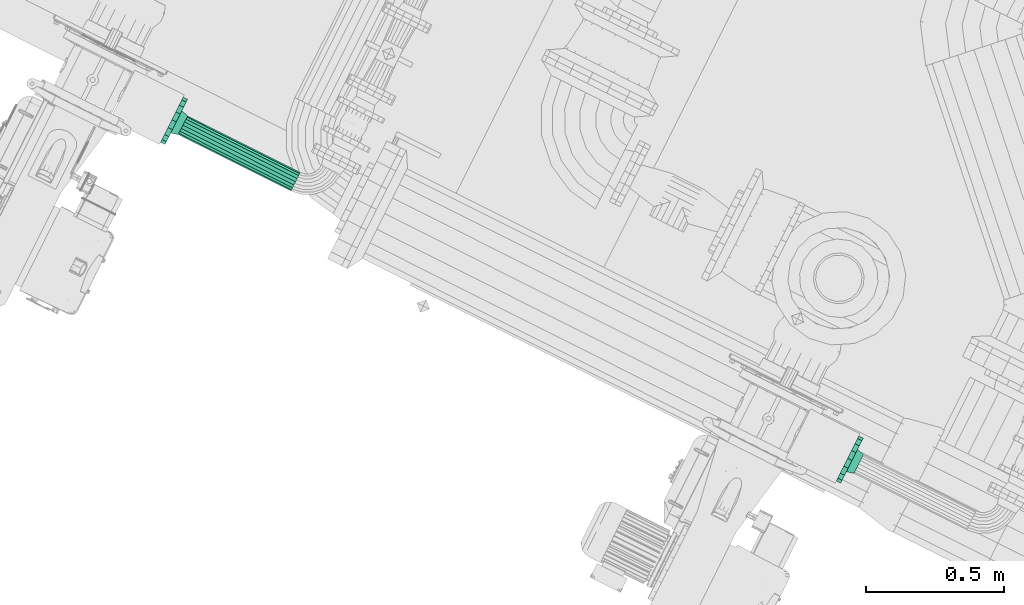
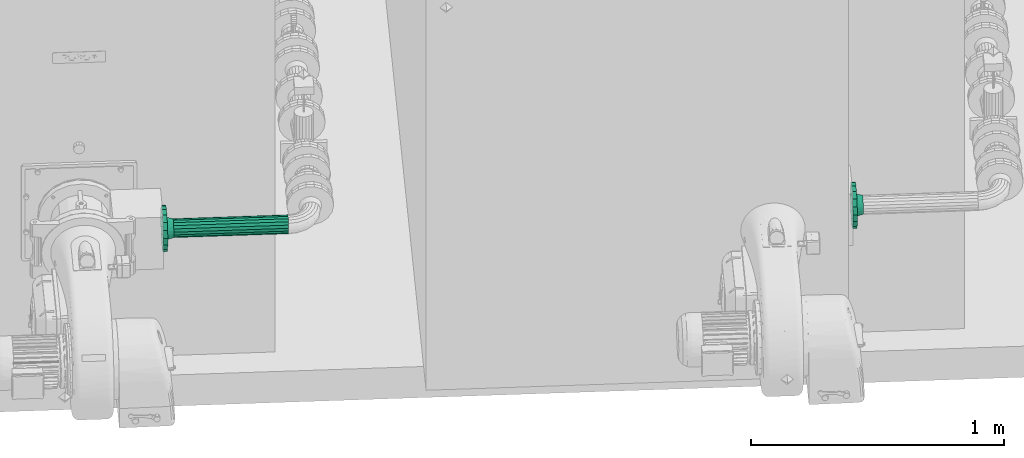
# One storey, part 42 of 206: 2 flow fittings, 1 flow segment.
"""IFC2X3 building model written with IfcOpenShell, lengths in metres."""

from ifc_helpers import new_model, si_unit, derived_unit, direction, frame, origin, place, context, subcontext, project, spatial, face_set, surface_model, source, transform, mapped, material, type_object, type_shapes, element, save


model = new_model("IFC2X3")

# Units and contexts
model_context = context("Model", 3, precision=5.2338327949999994e-05, world=origin(), true_north=direction((0.0, 1.0)))
body_context = subcontext(model_context, "Body", "Model", "MODEL_VIEW")
ifc_project = project(units=[si_unit("LENGTHUNIT", "METRE"), si_unit("AREAUNIT", "SQUARE_METRE"), si_unit("VOLUMEUNIT", "CUBIC_METRE"), si_unit("MASSUNIT", "GRAM", prefix="KILO"), si_unit("PLANEANGLEUNIT", "RADIAN"), derived_unit("THERMALTRANSMITTANCEUNIT", [(si_unit("MASSUNIT", "GRAM", prefix="KILO"), 1), (si_unit("THERMODYNAMICTEMPERATUREUNIT", "KELVIN"), -1), (si_unit("TIMEUNIT", "SECOND"), -3)])], contexts=[model_context])

# Site, building, storey
site_placement = place(None, frame((0.0, 0.0, 0.0), z_axis=(0.0, 0.0, 1.0), x_axis=(0.8939966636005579, -0.4480736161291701, 0.0)))
site = spatial("IfcSite", under=ifc_project, at=site_placement, Name="Default", CompositionType="ELEMENT")
building_placement = place(site_placement, origin())
building = spatial("IfcBuilding", under=site, at=building_placement, CompositionType="ELEMENT")
storey_placement = place(building_placement, origin())
storey = spatial("IfcBuildingStorey", under=building, at=storey_placement, Name="Erdgeschoss", CompositionType="ELEMENT", Elevation=0.0)

# Flow fitting
ifc_material = material(Name="IfcSurfaceStyle #352577")
distribution_element_type_1 = type_object("IfcDistributionElementType", Name="Flansch 355455:Flansch 355455", material=ifc_material)
shared_shape_1 = source(origin(), body_context, "Body", "SurfaceModel", [
    surface_model("IfcFaceBasedSurfaceModel", [(21.806271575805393, 4.789908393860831, 0.8699999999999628), (21.806271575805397, 4.792203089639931, 0.8830138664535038), (21.779271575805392, 4.785672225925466, 0.8853909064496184), (21.779271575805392, 4.782958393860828, 0.8699999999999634), (21.806271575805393, 4.798810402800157, 0.8944580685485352), (21.779271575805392, 4.793486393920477, 0.8989254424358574), (21.806271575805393, 4.808933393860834, 0.9029522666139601), (21.77927157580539, 4.805458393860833, 0.9089711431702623), (21.806271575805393, 4.821351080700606, 0.9074719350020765), (21.779271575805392, 4.820144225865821, 0.9143163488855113), (21.806271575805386, 4.834565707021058, 0.9074719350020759), (21.77927157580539, 4.835772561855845, 0.91431634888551), (21.806271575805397, 4.846983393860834, 0.9029522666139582), (21.779271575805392, 4.850458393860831, 0.9089711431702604), (21.806271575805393, 4.857106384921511, 0.8944580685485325), (21.77927157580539, 4.862430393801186, 0.8989254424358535), (21.806271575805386, 4.863713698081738, 0.8830138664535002), (21.779271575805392, 4.870244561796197, 0.8853909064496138), (21.806271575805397, 4.86600839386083, 0.8699999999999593), (21.779271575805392, 4.872958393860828, 0.8699999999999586), (21.806271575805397, 4.863713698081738, 0.8569861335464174), (21.779271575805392, 4.870244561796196, 0.8546090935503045), (21.806271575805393, 4.857106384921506, 0.8455419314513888), (21.779271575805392, 4.862430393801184, 0.8410745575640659), (21.806271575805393, 4.84698339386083, 0.8370477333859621), (21.779271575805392, 4.850458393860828, 0.8310288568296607), (21.8062715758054, 4.834565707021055, 0.8325280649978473), (21.779271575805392, 4.835772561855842, 0.8256836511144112), (21.806271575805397, 4.821351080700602, 0.832528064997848), (21.779271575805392, 4.820144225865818, 0.8256836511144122), (21.806271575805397, 4.80893339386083, 0.8370477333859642), (21.779271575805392, 4.805458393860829, 0.8310288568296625), (21.806271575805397, 4.798810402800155, 0.8455419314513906), (21.779271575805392, 4.7934863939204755, 0.8410745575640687), (21.806271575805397, 4.792203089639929, 0.856986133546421), (21.779271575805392, 4.785672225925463, 0.854609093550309), (21.7792715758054, 4.827958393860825, 0.7774999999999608), (21.7792715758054, 4.796321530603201, 0.7830784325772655), (21.7612715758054, 4.796321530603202, 0.783078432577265), (21.761271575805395, 4.827958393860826, 0.7774999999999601), (21.779271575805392, 4.768500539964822, 0.7991408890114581), (21.7612715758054, 4.768500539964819, 0.7991408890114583), (21.779271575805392, 4.747851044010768, 0.8237499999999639), (21.761271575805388, 4.747851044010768, 0.8237499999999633), (21.779271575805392, 4.736863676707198, 0.8539375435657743), (21.761271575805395, 4.736863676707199, 0.8539375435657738), (21.779271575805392, 4.736863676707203, 0.8860624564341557), (21.761271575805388, 4.736863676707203, 0.8860624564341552), (21.77927157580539, 4.7478510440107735, 0.9162499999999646), (21.761271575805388, 4.747851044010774, 0.9162499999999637), (21.779271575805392, 4.768500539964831, 0.9408591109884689), (21.761271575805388, 4.768500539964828, 0.940859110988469), (21.779271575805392, 4.79632153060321, 0.9569215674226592), (21.76127157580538, 4.796321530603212, 0.9569215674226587), (21.77927157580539, 4.827958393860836, 0.9624999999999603), (21.761271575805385, 4.827958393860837, 0.9624999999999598), (21.77927157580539, 4.859595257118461, 0.9569215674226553), (21.761271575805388, 4.859595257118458, 0.9569215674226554), (21.77927157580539, 4.887416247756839, 0.9408591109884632), (21.761271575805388, 4.887416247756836, 0.9408591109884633), (21.77927157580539, 4.908065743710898, 0.9162499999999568), (21.761271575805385, 4.908065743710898, 0.9162499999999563), (21.77927157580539, 4.91905311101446, 0.8860624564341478), (21.761271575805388, 4.91905311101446, 0.8860624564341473), (21.77927157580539, 4.91905311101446, 0.8539375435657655), (21.761271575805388, 4.91905311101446, 0.8539375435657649), (21.77927157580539, 4.90806574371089, 0.8237499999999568), (21.761271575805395, 4.9080657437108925, 0.8237499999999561), (21.779271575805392, 4.887416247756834, 0.7991408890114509), (21.7612715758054, 4.887416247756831, 0.7991408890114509), (21.779271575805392, 4.859595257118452, 0.7830784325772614), (21.761271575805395, 4.859595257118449, 0.7830784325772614), (21.77927157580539, 4.827958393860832, 0.86999999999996)], [face_set([[[0, 1, 2, 3]], [[1, 4, 5, 2]], [[4, 6, 7, 5]], [[6, 8, 9, 7]], [[8, 10, 11, 9]], [[10, 12, 13, 11]], [[12, 14, 15, 13]], [[14, 16, 17, 15]], [[16, 18, 19, 17]], [[18, 20, 21, 19]], [[20, 22, 23, 21]], [[22, 24, 25, 23]], [[24, 26, 27, 25]], [[26, 28, 29, 27]], [[28, 30, 31, 29]], [[30, 32, 33, 31]], [[32, 34, 35, 33]], [[34, 0, 3, 35]], [[36, 37, 38, 39]], [[37, 40, 41, 38]], [[40, 42, 43, 41]], [[42, 44, 45, 43]], [[44, 46, 47, 45]], [[46, 48, 49, 47]], [[48, 50, 51, 49]], [[50, 52, 53, 51]], [[52, 54, 55, 53]], [[54, 56, 57, 55]], [[56, 58, 59, 57]], [[58, 60, 61, 59]], [[60, 62, 63, 61]], [[62, 64, 65, 63]], [[64, 66, 67, 65]], [[66, 68, 69, 67]], [[68, 70, 71, 69]], [[70, 36, 39, 71]], [[72, 37, 36]], [[72, 40, 37]], [[72, 42, 40]], [[72, 44, 42]], [[72, 46, 44]], [[72, 48, 46]], [[72, 50, 48]], [[72, 52, 50]], [[72, 54, 52]], [[72, 56, 54]], [[72, 58, 56]], [[72, 60, 58]], [[72, 62, 60]], [[72, 64, 62]], [[72, 66, 64]], [[72, 68, 66]], [[72, 70, 68]], [[72, 36, 70]]])]),
])
type_shapes(distribution_element_type_1, [shared_shape_1])
flow_fitting_1_placement = place(storey_placement, origin())
element("IfcFlowFitting", 1, at=flow_fitting_1_placement, inside=storey, type_object=distribution_element_type_1, material=ifc_material, Name="Flansch", ObjectType="Flansch", context=body_context, shape_type="MappedRepresentation", body=[
    mapped(shared_shape_1, transform((0.0, 0.0, 0.0), scale=1.0)),
])

# Flow segment
distribution_element_type_2 = type_object("IfcDistributionElementType", Name="Stahlrohr nach DIN 2448 358511:Stahlrohr nach DIN 2448 358511", material=ifc_material)
shared_shape_2 = source(origin(), body_context, "Body", "SurfaceModel", [
    surface_model("IfcFaceBasedSurfaceModel", [(22.261766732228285, 4.827958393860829, 0.908049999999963), (22.261766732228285, 4.840972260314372, 0.9057553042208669), (21.806271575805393, 4.840972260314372, 0.9057553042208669), (21.806271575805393, 4.82795839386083, 0.9080499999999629), (22.261766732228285, 4.8524164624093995, 0.8991479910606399), (21.806271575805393, 4.852416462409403, 0.8991479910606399), (22.261766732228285, 4.860910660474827, 0.8890249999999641), (21.806271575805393, 4.860910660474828, 0.8890249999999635), (22.261766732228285, 4.865430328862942, 0.8766073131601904), (21.806271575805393, 4.865430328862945, 0.8766073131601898), (22.261766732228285, 4.865430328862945, 0.8633926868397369), (21.806271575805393, 4.865430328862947, 0.8633926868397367), (22.261766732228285, 4.860910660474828, 0.850974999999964), (21.806271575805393, 4.860910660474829, 0.8509749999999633), (22.261766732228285, 4.852416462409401, 0.8408520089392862), (21.806271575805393, 4.852416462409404, 0.8408520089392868), (22.261766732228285, 4.840972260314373, 0.8342446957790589), (21.806271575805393, 4.840972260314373, 0.8342446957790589), (22.261766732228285, 4.827958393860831, 0.8319499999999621), (21.806271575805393, 4.827958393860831, 0.8319499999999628), (22.261766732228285, 4.814944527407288, 0.8342446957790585), (21.806271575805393, 4.814944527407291, 0.8342446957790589), (22.261766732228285, 4.803500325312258, 0.8408520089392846), (21.806271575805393, 4.803500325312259, 0.8408520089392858), (22.261766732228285, 4.7950061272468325, 0.8509749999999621), (21.806271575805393, 4.795006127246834, 0.8509749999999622), (22.261766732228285, 4.790486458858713, 0.8633926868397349), (21.806271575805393, 4.790486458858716, 0.8633926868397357), (22.261766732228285, 4.790486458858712, 0.8766073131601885), (21.806271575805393, 4.790486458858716, 0.8766073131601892), (22.261766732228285, 4.79500612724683, 0.8890249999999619), (21.806271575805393, 4.7950061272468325, 0.8890249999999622), (22.261766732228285, 4.803500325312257, 0.899147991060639), (21.806271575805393, 4.803500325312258, 0.8991479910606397), (22.261766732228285, 4.814944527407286, 0.9057553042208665), (21.806271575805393, 4.814944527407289, 0.9057553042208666)], [face_set([[[0, 1, 2, 3]], [[1, 4, 5, 2]], [[4, 6, 7, 5]], [[6, 8, 9, 7]], [[8, 10, 11, 9]], [[10, 12, 13, 11]], [[12, 14, 15, 13]], [[14, 16, 17, 15]], [[16, 18, 19, 17]], [[18, 20, 21, 19]], [[20, 22, 23, 21]], [[22, 24, 25, 23]], [[24, 26, 27, 25]], [[26, 28, 29, 27]], [[28, 30, 31, 29]], [[30, 32, 33, 31]], [[32, 34, 35, 33]], [[34, 0, 3, 35]]])]),
])
type_shapes(distribution_element_type_2, [shared_shape_2])
flow_segment_placement = place(storey_placement, origin())
element("IfcFlowSegment", 2, at=flow_segment_placement, inside=storey, type_object=distribution_element_type_2, material=ifc_material, Name="Stahlrohr nach DIN 2448", ObjectType="Stahlrohr nach DIN 2448", context=body_context, shape_type="MappedRepresentation", body=[
    mapped(shared_shape_2, transform((0.0, 0.0, 0.0), scale=1.0)),
])

# Flow fitting
distribution_element_type_3 = type_object("IfcDistributionElementType", Name="Flansch 603050:Flansch 603050", material=ifc_material)
shared_shape_3 = source(origin(), body_context, "Body", "SurfaceModel", [
    surface_model("IfcFaceBasedSurfaceModel", [(24.540145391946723, 4.789908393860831, 0.8699999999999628), (24.540145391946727, 4.792203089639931, 0.8830138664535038), (24.513145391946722, 4.785672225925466, 0.8853909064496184), (24.513145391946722, 4.782958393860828, 0.8699999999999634), (24.540145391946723, 4.798810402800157, 0.8944580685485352), (24.513145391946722, 4.793486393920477, 0.8989254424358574), (24.540145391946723, 4.808933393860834, 0.9029522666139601), (24.51314539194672, 4.805458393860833, 0.9089711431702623), (24.540145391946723, 4.821351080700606, 0.9074719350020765), (24.513145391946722, 4.820144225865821, 0.9143163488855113), (24.540145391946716, 4.834565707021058, 0.9074719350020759), (24.51314539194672, 4.835772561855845, 0.91431634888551), (24.540145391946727, 4.846983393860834, 0.9029522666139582), (24.513145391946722, 4.850458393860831, 0.9089711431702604), (24.540145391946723, 4.857106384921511, 0.8944580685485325), (24.51314539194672, 4.862430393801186, 0.8989254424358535), (24.540145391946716, 4.863713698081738, 0.8830138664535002), (24.513145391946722, 4.870244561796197, 0.8853909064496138), (24.540145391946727, 4.86600839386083, 0.8699999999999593), (24.513145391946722, 4.872958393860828, 0.8699999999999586), (24.540145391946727, 4.863713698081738, 0.8569861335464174), (24.513145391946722, 4.870244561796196, 0.8546090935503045), (24.540145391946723, 4.857106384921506, 0.8455419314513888), (24.513145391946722, 4.862430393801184, 0.8410745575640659), (24.540145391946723, 4.84698339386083, 0.8370477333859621), (24.513145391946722, 4.850458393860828, 0.8310288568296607), (24.54014539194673, 4.834565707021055, 0.8325280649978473), (24.513145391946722, 4.835772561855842, 0.8256836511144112), (24.540145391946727, 4.821351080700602, 0.832528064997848), (24.513145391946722, 4.820144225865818, 0.8256836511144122), (24.540145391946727, 4.80893339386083, 0.8370477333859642), (24.513145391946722, 4.805458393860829, 0.8310288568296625), (24.540145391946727, 4.798810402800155, 0.8455419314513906), (24.513145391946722, 4.7934863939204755, 0.8410745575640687), (24.540145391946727, 4.792203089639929, 0.856986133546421), (24.513145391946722, 4.785672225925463, 0.854609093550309), (24.51314539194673, 4.827958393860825, 0.7774999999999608), (24.51314539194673, 4.796321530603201, 0.7830784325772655), (24.49514539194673, 4.796321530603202, 0.783078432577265), (24.495145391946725, 4.827958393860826, 0.7774999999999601), (24.513145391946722, 4.768500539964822, 0.7991408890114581), (24.49514539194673, 4.768500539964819, 0.7991408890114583), (24.513145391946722, 4.747851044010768, 0.8237499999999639), (24.495145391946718, 4.747851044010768, 0.8237499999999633), (24.513145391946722, 4.736863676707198, 0.8539375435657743), (24.495145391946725, 4.736863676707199, 0.8539375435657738), (24.513145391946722, 4.736863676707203, 0.8860624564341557), (24.495145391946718, 4.736863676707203, 0.8860624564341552), (24.51314539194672, 4.7478510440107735, 0.9162499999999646), (24.495145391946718, 4.747851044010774, 0.9162499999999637), (24.513145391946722, 4.768500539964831, 0.9408591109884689), (24.495145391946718, 4.768500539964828, 0.940859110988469), (24.513145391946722, 4.79632153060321, 0.9569215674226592), (24.49514539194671, 4.796321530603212, 0.9569215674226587), (24.51314539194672, 4.827958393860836, 0.9624999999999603), (24.495145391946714, 4.827958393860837, 0.9624999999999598), (24.51314539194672, 4.859595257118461, 0.9569215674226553), (24.495145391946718, 4.859595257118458, 0.9569215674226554), (24.51314539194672, 4.887416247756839, 0.9408591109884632), (24.495145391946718, 4.887416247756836, 0.9408591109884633), (24.51314539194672, 4.908065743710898, 0.9162499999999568), (24.495145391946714, 4.908065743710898, 0.9162499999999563), (24.51314539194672, 4.91905311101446, 0.8860624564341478), (24.495145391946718, 4.91905311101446, 0.8860624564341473), (24.51314539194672, 4.91905311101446, 0.8539375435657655), (24.495145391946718, 4.91905311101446, 0.8539375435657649), (24.51314539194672, 4.90806574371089, 0.8237499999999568), (24.495145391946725, 4.9080657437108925, 0.8237499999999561), (24.513145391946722, 4.887416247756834, 0.7991408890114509), (24.49514539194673, 4.887416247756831, 0.7991408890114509), (24.513145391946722, 4.859595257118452, 0.7830784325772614), (24.495145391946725, 4.859595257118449, 0.7830784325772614), (24.51314539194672, 4.827958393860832, 0.86999999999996)], [face_set([[[0, 1, 2, 3]], [[1, 4, 5, 2]], [[4, 6, 7, 5]], [[6, 8, 9, 7]], [[8, 10, 11, 9]], [[10, 12, 13, 11]], [[12, 14, 15, 13]], [[14, 16, 17, 15]], [[16, 18, 19, 17]], [[18, 20, 21, 19]], [[20, 22, 23, 21]], [[22, 24, 25, 23]], [[24, 26, 27, 25]], [[26, 28, 29, 27]], [[28, 30, 31, 29]], [[30, 32, 33, 31]], [[32, 34, 35, 33]], [[34, 0, 3, 35]], [[36, 37, 38, 39]], [[37, 40, 41, 38]], [[40, 42, 43, 41]], [[42, 44, 45, 43]], [[44, 46, 47, 45]], [[46, 48, 49, 47]], [[48, 50, 51, 49]], [[50, 52, 53, 51]], [[52, 54, 55, 53]], [[54, 56, 57, 55]], [[56, 58, 59, 57]], [[58, 60, 61, 59]], [[60, 62, 63, 61]], [[62, 64, 65, 63]], [[64, 66, 67, 65]], [[66, 68, 69, 67]], [[68, 70, 71, 69]], [[70, 36, 39, 71]], [[72, 37, 36]], [[72, 40, 37]], [[72, 42, 40]], [[72, 44, 42]], [[72, 46, 44]], [[72, 48, 46]], [[72, 50, 48]], [[72, 52, 50]], [[72, 54, 52]], [[72, 56, 54]], [[72, 58, 56]], [[72, 60, 58]], [[72, 62, 60]], [[72, 64, 62]], [[72, 66, 64]], [[72, 68, 66]], [[72, 70, 68]], [[72, 36, 70]]])]),
])
type_shapes(distribution_element_type_3, [shared_shape_3])
flow_fitting_2_placement = place(storey_placement, origin())
element("IfcFlowFitting", 3, at=flow_fitting_2_placement, inside=storey, type_object=distribution_element_type_3, material=ifc_material, Name="Flansch", ObjectType="Flansch", context=body_context, shape_type="MappedRepresentation", body=[
    mapped(shared_shape_3, transform((0.0, 0.0, 0.0), scale=1.0)),
])

save(model, "model.ifc")
